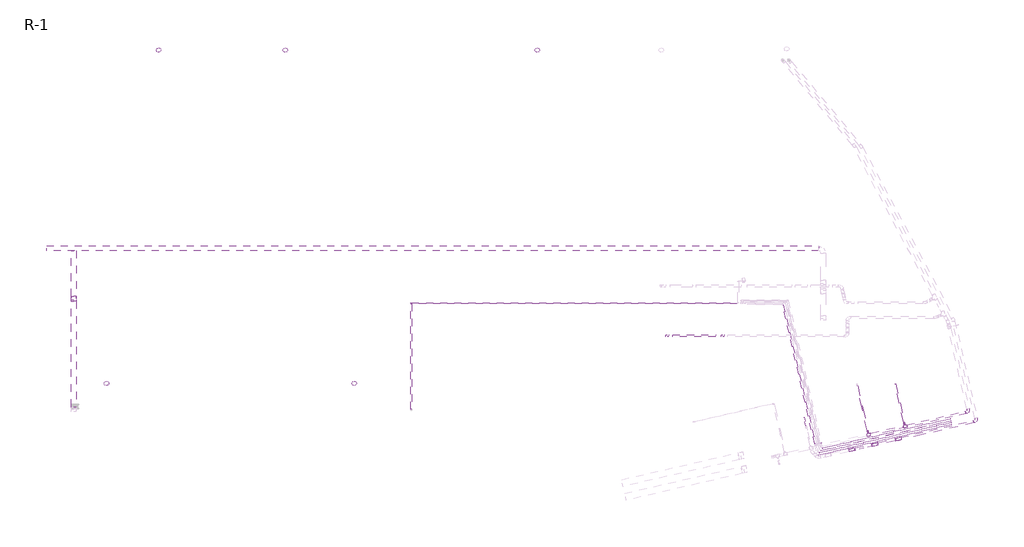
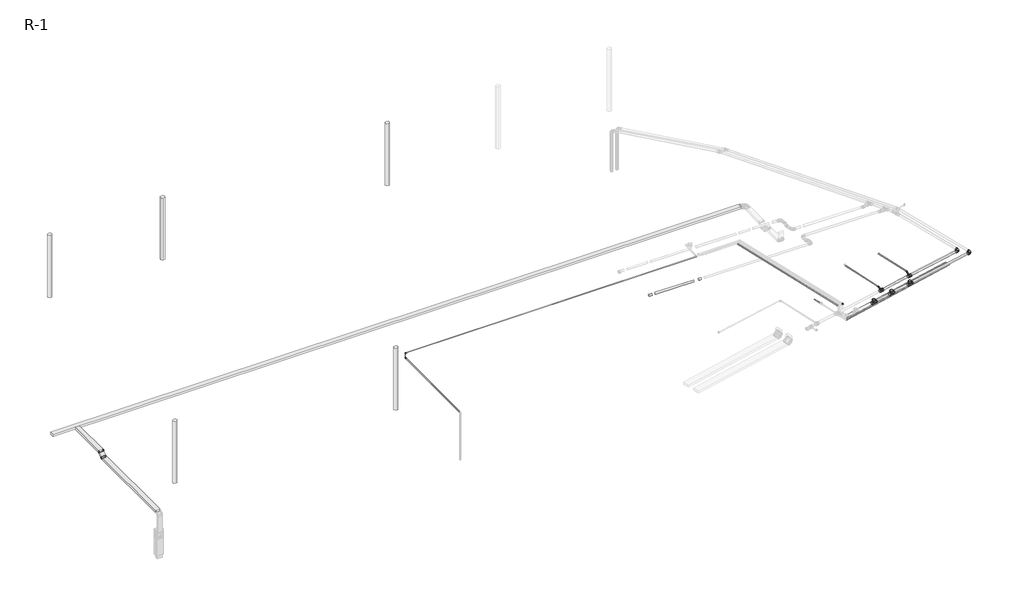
# One storey, part 2 of 4: 26 pipe segments, 13 pipe fittings, 4 cable carrier segments, 2 cable carrier fittings.
"""IFC4 building model written with IfcOpenShell, lengths in millimetres."""

from ifc_helpers import new_model, si_unit, point, frame, frame_2d, origin, place, context, project, spatial, polyline, circle_curve, trimmed, segment, composite_curve, outline, extrude, transform, mapped, element, save
from components import standaard_fc092b2d, standaard_97f41160, coude_ff_pvc_u_standard_f7723ec7, coude_ff_pvc_u_standard_8c4d7ce2, coude_ff_pvc_u_standard_2eac1543, coude_ff_pvc_u_standard_c60e91f8, standard_6e5039bf, standard_4afe001c, standard_fb7d58a2, standard_da27b0df, standard_a2dd615c, standard_5fcdce4c, standard_f6c9f473

model = new_model("IFC4")

# Units and contexts
model_context = context("Model", 3, world=origin())
ifc_project = project(units=[si_unit("LENGTHUNIT", "METRE", prefix="MILLI")], contexts=[model_context])

# Site, building, storey
site = spatial("IfcSite", under=ifc_project)
building = spatial("IfcBuilding", under=site)
storey = spatial("IfcBuildingStorey", under=building, Name="R-1", Elevation=-2900.0)

# Cable carrier fittings
placement = place(None, origin())
standaard_shape = standaard_fc092b2d(model_context)
element("IfcCableCarrierFitting", 1, ObjectType="AI_Raccord cdc_Coude desencdant : standaard", at=placement, inside=storey, context=model_context, shape_type="MappedRepresentation", body=[
    mapped(standaard_shape, transform((7512.0715876, 4480.1167058, -382.2402782), x_axis=(0.0, -1.0, 0.0), y_axis=(0.0, 0.0, -1.0), z_axis=(1.0, 0.0, 0.0))),
])
standaard_2_shape = standaard_97f41160(model_context)
element("IfcCableCarrierFitting", 2, ObjectType="AI_Raccord cdc_Coude montant : standaard", at=placement, inside=storey, context=model_context, shape_type="MappedRepresentation", body=[
    mapped(standaard_2_shape, transform((7512.0715876, 4312.356984, -550.0), x_axis=(0.0, -0.7071067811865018, -0.7071067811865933), y_axis=(0.0, -0.7071067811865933, 0.7071067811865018), z_axis=(-1.0, 0.0, 0.0))),
])

# Cable carrier segments
element("IfcCableCarrierSegment", 3, ObjectType="Par défaut", at=placement, inside=storey, context=model_context, shape_type="SweptSolid", body=[
    extrude(outline(polyline([(7612.0715876, -179.5886718), (7412.0715876, -179.5886718), (7412.0715876, 4290.2320923), (7612.0715876, 4290.2320923), (7612.0715876, -179.5886718)])), frame((0.0, 0.0, -600.0), z_axis=(0.0, 0.0, 1.0), x_axis=(1.0, 0.0, 0.0)), (0.0, 0.0, 1.0), 100.0),
])
element("IfcCableCarrierSegment", 4, ObjectType="Par défaut", at=placement, inside=storey, context=model_context, shape_type="SweptSolid", body=[
    extrude(outline(polyline([(6363.1480976, 6430.3545469), (6363.1480976, 6630.3545469), (39006.6747361, 6630.3545469), (39006.6747361, 6430.3545469), (6363.1480976, 6430.3545469)])), frame((0.0, 0.0, -432.2402782), z_axis=(0.0, 0.0, 1.0), x_axis=(1.0, 0.0, 0.0)), (0.0, 0.0, 1.0), 100.0),
])
element("IfcCableCarrierSegment", 5, ObjectType="Par défaut", at=placement, inside=storey, context=model_context, shape_type="SweptSolid", body=[
    extrude(outline(polyline([(7612.0715876, 6430.3545469), (7612.0715876, 4502.2415975), (7412.0715876, 4502.2415975), (7412.0715876, 6430.3545469), (7612.0715876, 6430.3545469)])), frame((0.0, 0.0, -432.2402782), z_axis=(0.0, 0.0, 1.0), x_axis=(1.0, 0.0, 0.0)), (0.0, 0.0, 1.0), 100.0),
])
element("IfcCableCarrierSegment", 6, ObjectType="Par défaut", at=placement, inside=storey, context=model_context, shape_type="SweptSolid", body=[
    extrude(outline(polyline([(-100.0, -61.8033989), (100.0, -61.8033989), (100.0, -161.8033989), (-100.0, -161.8033989), (-100.0, -61.8033989)])), frame((7512.0715876, 4407.0585864, -613.4122806), z_axis=(0.0, 0.7071067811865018, 0.7071067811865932), x_axis=(1.0, 0.0, 0.0)), (0.0, 0.0, 1.0), 192.9982904),
])

# Pipe fittings
coude_ff_pvc_u_standard_shape = coude_ff_pvc_u_standard_f7723ec7(model_context)
element("IfcPipeFitting", 7, ObjectType="Coude - FF - PVC-U : Standard", at=placement, inside=storey, context=model_context, shape_type="MappedRepresentation", body=[
    mapped(coude_ff_pvc_u_standard_shape, transform((45692.5434802, -771.2933735, -587.2236629), x_axis=(0.9742673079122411, 0.224896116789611, -0.014998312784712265), y_axis=(-0.225115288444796, 0.9742167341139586, -0.01499539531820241), z_axis=(0.011239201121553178, 0.01798587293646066, 0.9997750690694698))),
])
coude_ff_pvc_u_standard_2_shape = coude_ff_pvc_u_standard_8c4d7ce2(model_context)
element("IfcPipeFitting", 8, ObjectType="Coude - FF - PVC-U : Standard", at=placement, inside=storey, context=model_context, shape_type="MappedRepresentation", body=[
    mapped(coude_ff_pvc_u_standard_2_shape, transform((45356.083122, -379.144878, -610.8907552), x_axis=(0.9742598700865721, 0.22492833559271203, -0.014998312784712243), y_axis=(-0.22514750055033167, 0.9742092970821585, -0.014994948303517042), z_axis=(0.011238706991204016, 0.017985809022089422, 0.9997750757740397))),
])
coude_ff_pvc_u_standard_3_shape = coude_ff_pvc_u_standard_2eac1543(model_context)
element("IfcPipeFitting", 9, ObjectType="Coude - FF - PVC-U : Standard", at=placement, inside=storey, context=model_context, shape_type="MappedRepresentation", body=[
    mapped(coude_ff_pvc_u_standard_3_shape, transform((41088.6287533, -1205.9081242, -443.1378667), x_axis=(0.22467102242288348, -0.9743192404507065, -0.014998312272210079), y_axis=(-0.002994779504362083, 0.01470132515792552, -0.9998874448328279), z_axis=(0.9744300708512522, 0.2246906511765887, 0.0003850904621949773))),
])
coude_ff_pvc_u_standard_4_shape = coude_ff_pvc_u_standard_c60e91f8(model_context)
element("IfcPipeFitting", 10, ObjectType="Coude - FF - PVC-U : Standard", at=placement, inside=storey, context=model_context, shape_type="MappedRepresentation", body=[
    mapped(coude_ff_pvc_u_standard_4_shape, transform((42631.1101324, -855.2775064, -435.5859837), x_axis=(0.22492868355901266, -0.9742597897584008, -0.01499831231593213), y_axis=(-0.021043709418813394, 0.01053191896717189, -0.9997230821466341), z_axis=(0.974147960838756, 0.2251820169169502, -0.018133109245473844))),
])
standard_shape = standard_6e5039bf(model_context)
element("IfcPipeFitting", 11, ObjectType="Coude - Générique1 : Standard", at=placement, inside=storey, context=model_context, shape_type="MappedRepresentation", body=[
    mapped(standard_shape, transform((39102.4868441, -1703.5362678, -296.6995), x_axis=(0.0, 0.0, 1.0), y_axis=(-0.22505274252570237, 0.9743465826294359, 0.0), z_axis=(-0.9743465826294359, -0.22505274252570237, 0.0))),
])
element("IfcPipeFitting", 12, ObjectType="Coude - Générique1 : Standard", at=placement, inside=storey, context=model_context, shape_type="MappedRepresentation", body=[
    mapped(standard_shape, transform((21784.7623914, 4212.7875587, -539.2767599), x_axis=(0.0, 1.0, 0.0), y_axis=(0.0, 0.0, 1.0), z_axis=(1.0, 0.0, 0.0))),
])
element("IfcPipeFitting", 13, ObjectType="Coude - Générique1 : Standard", at=placement, inside=storey, context=model_context, shape_type="MappedRepresentation", body=[
    mapped(standard_shape, transform((21784.7623914, 4212.7875587, -296.6995001), x_axis=(0.0, 0.0, 1.0), y_axis=(1.0, 0.0, 0.0), z_axis=(0.0, 1.0, 0.0))),
])
standard_2_shape = standard_4afe001c(model_context)
element("IfcPipeFitting", 14, ObjectType="EG-RCAN Té sanitaire de réduction - PVC - Nom. 40 - DWV : Standard", at=placement, inside=storey, context=model_context, shape_type="MappedRepresentation", body=[
    mapped(standard_2_shape, transform((41123.3626635, -1356.3572183, -545.7298394), x_axis=(-0.9742598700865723, -0.2249283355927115, 0.014998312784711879), y_axis=(0.1805228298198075, -0.8183080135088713, -0.5456954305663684), z_axis=(0.13501560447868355, -0.5289416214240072, 0.8378493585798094))),
])
standard_3_shape = standard_fb7d58a2(model_context)
element("IfcPipeFitting", 15, ObjectType="EG-RCAN Té sanitaire de réduction - PVC - Nom. 40 - DWV : Standard", at=placement, inside=storey, context=model_context, shape_type="MappedRepresentation", body=[
    mapped(standard_3_shape, transform((42662.0496357, -1001.1190419, -569.4172653), x_axis=(-0.9742598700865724, -0.2249283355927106, 0.014998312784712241), y_axis=(0.14871914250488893, -0.6913142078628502, -0.707083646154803), z_axis=(0.16941169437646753, -0.6866526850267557, 0.7069708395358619))),
])
standard_4_shape = standard_da27b0df(model_context)
element("IfcPipeFitting", 16, ObjectType="Transformation - Générique : Standard", at=placement, inside=storey, context=model_context, shape_type="MappedRepresentation", body=[
    mapped(standard_4_shape, transform((42648.2895241, -936.2533457, -503.1184512), x_axis=(-0.14674639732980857, 0.6917681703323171, 0.7070518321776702), y_axis=(-0.9745589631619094, -0.2235282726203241, 0.01642981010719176), z_axis=(0.16941169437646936, -0.6866526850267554, 0.7069708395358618))),
])
standard_5_shape = standard_a2dd615c(model_context)
element("IfcPipeFitting", 17, ObjectType="EG-RCAN Té sanitaire de réduction - PVC - Nom. 40 - DWV : Standard", at=placement, inside=storey, context=model_context, shape_type="MappedRepresentation", body=[
    mapped(standard_5_shape, transform((40407.105911, -1991.3634458, -505.8572399), x_axis=(-0.9742673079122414, -0.22489611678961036, 0.014998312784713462), y_axis=(-0.014720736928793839, -0.002911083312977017, -0.9998874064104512), z_axis=(0.22491445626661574, -0.9743783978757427, -0.00047446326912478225))),
])
standard_6_shape = standard_5fcdce4c(model_context)
element("IfcPipeFitting", 18, ObjectType="EG-RCAN Té sanitaire de réduction - PVC - Nom. 40 - DWV : Standard", at=placement, inside=storey, context=model_context, shape_type="MappedRepresentation", body=[
    mapped(standard_6_shape, transform((41370.2226912, -1769.041274, -520.6838964), x_axis=(-0.9742673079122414, -0.22489611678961, 0.014998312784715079), y_axis=(-0.014700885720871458, -0.0029970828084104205, -0.9998874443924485), z_axis=(0.22491575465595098, -0.9743781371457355, -0.00038621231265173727))),
])
standard_7_shape = standard_f6c9f473(model_context)
element("IfcPipeFitting", 19, ObjectType="EG-RCAN Té sanitaire de réduction - PVC - Nom. 40 - DWV : Standard", at=placement, inside=storey, context=model_context, shape_type="MappedRepresentation", body=[
    mapped(standard_7_shape, transform((42372.6425516, -1537.6465303, -536.1156023), x_axis=(-0.9742673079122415, -0.2248961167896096, 0.014998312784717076), y_axis=(-0.014682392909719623, -0.003077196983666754, -0.9998874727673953), z_axis=(0.22491696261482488, -0.9743778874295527, -0.00030400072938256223))),
])

# Pipe segments
element("IfcPipeSegment", 20, ObjectType="PVC Pression HTA", at=placement, inside=storey, context=model_context, shape_type="SweptSolid", body=[
    extrude(outline(composite_curve([segment(trimmed(circle_curve(frame_2d((-539.2767599, 21784.7623914)), 16.7005), [point((-539.2767599, 21768.0618914))], [point((-555.9772599, 21784.7623914))], False, "CARTESIAN"), True, "CONTINUOUS"), segment(trimmed(circle_curve(frame_2d((-539.2767599, 21784.7623914)), 16.7005), [point((-555.9772599, 21784.7623914))], [point((-539.2767599, 21801.4628914))], False, "CARTESIAN"), True, "CONTINUOUS"), segment(trimmed(circle_curve(frame_2d((-539.2767599, 21784.7623914)), 16.7005), [point((-539.2767599, 21801.4628914))], [point((-522.5762599, 21784.7623914))], False, "CARTESIAN"), True, "CONTINUOUS"), segment(trimmed(circle_curve(frame_2d((-539.2767599, 21784.7623914)), 16.7005), [point((-522.5762599, 21784.7623914))], [point((-539.2767599, 21768.0618914))], False, "CARTESIAN"), True, "CONTINUOUS")], self_intersect=False)), frame((0.0, -270.1789703, 0.0), z_axis=(0.0, 1.0, 0.0), x_axis=(0.0, 0.0, 1.0)), (0.0, 0.0, 1.0), 4457.9665291),
])
element("IfcPipeSegment", 21, ObjectType="PVC Pression HTA", at=placement, inside=storey, context=model_context, shape_type="SweptSolid", body=[
    extrude(outline(composite_curve([segment(trimmed(circle_curve(frame_2d((4212.7875587, -296.6995001)), 16.7005), [point((4196.0870587, -296.6995001))], [point((4212.7875587, -279.9990001))], False, "CARTESIAN"), True, "CONTINUOUS"), segment(trimmed(circle_curve(frame_2d((4212.7875587, -296.6995001)), 16.7005), [point((4212.7875587, -279.9990001))], [point((4229.4880587, -296.6995001))], False, "CARTESIAN"), True, "CONTINUOUS"), segment(trimmed(circle_curve(frame_2d((4212.7875587, -296.6995001)), 16.7005), [point((4229.4880587, -296.6995001))], [point((4212.7875587, -313.4000001))], False, "CARTESIAN"), True, "CONTINUOUS"), segment(trimmed(circle_curve(frame_2d((4212.7875587, -296.6995001)), 16.7005), [point((4212.7875587, -313.4000001))], [point((4196.0870587, -296.6995001))], False, "CARTESIAN"), True, "CONTINUOUS")], self_intersect=False)), frame((21809.7623914, 0.0, 0.0), z_axis=(1.0, 0.0, 0.0), x_axis=(0.0, 1.0, 0.0)), (0.0, 0.0, 1.0), 13770.7957932),
])
element("IfcPipeSegment", 22, ObjectType="Acier - Té", at=placement, inside=storey, context=model_context, shape_type="SweptSolid", body=[
    extrude(outline(composite_curve([segment(trimmed(circle_curve(frame_2d((0.0, -16.7005)), 16.7005), [point((-16.7005001, -16.7005))], [point((0.0, 0.0))], False, "CARTESIAN"), True, "CONTINUOUS"), segment(trimmed(circle_curve(frame_2d((0.0, -16.7005)), 16.7005), [point((0.0, 0.0))], [point((16.7005, -16.7005))], False, "CARTESIAN"), True, "CONTINUOUS"), segment(trimmed(circle_curve(frame_2d((0.0, -16.7005)), 16.7005), [point((16.7005, -16.7005))], [point((0.0, -33.401))], False, "CARTESIAN"), True, "CONTINUOUS"), segment(trimmed(circle_curve(frame_2d((0.0, -16.7005)), 16.7005), [point((0.0, -33.401))], [point((-16.7005001, -16.7005))], False, "CARTESIAN"), True, "CONTINUOUS")], self_intersect=False)), frame((38860.4804567, -1733.7509914, -313.4), z_axis=(-0.22511561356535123, 0.9743320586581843, 0.0), x_axis=(0.9743320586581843, 0.22511561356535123, 0.0)), (0.0, 0.0, 1.0), 6032.4796461),
])
element("IfcPipeSegment", 23, ObjectType="Acier - Té", at=placement, inside=storey, context=model_context, shape_type="SweptSolid", body=[
    extrude(outline(composite_curve([segment(trimmed(circle_curve(frame_2d((0.0, 16.7005)), 16.7005), [point((16.7004999, 16.7005))], [point((0.0, 0.0))], False, "CARTESIAN"), True, "CONTINUOUS"), segment(trimmed(circle_curve(frame_2d((0.0, 16.7005)), 16.7005), [point((0.0, 0.0))], [point((-16.7005001, 16.7005))], False, "CARTESIAN"), True, "CONTINUOUS"), segment(trimmed(circle_curve(frame_2d((0.0, 16.7005)), 16.7005), [point((-16.7005001, 16.7005))], [point((0.0, 33.401))], False, "CARTESIAN"), True, "CONTINUOUS"), segment(trimmed(circle_curve(frame_2d((0.0, 16.7005)), 16.7005), [point((0.0, 33.401))], [point((16.7004999, 16.7005))], False, "CARTESIAN"), True, "CONTINUOUS")], self_intersect=False)), frame((38997.3010222, -2214.4706954, -749.4824602), z_axis=(0.9743176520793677, 0.22517795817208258, 0.0), x_axis=(0.22517795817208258, -0.9743176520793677, 0.0)), (0.0, 0.0, 1.0), 5779.9387411),
])
element("IfcPipeSegment", 24, ObjectType="Acier - Té", at=placement, inside=storey, context=model_context, shape_type="SweptSolid", body=[
    extrude(outline(composite_curve([segment(trimmed(circle_curve(frame_2d((0.0, 16.7005)), 16.7005), [point((16.7005, 16.7005))], [point((0.0, 0.0))], False, "CARTESIAN"), True, "CONTINUOUS"), segment(trimmed(circle_curve(frame_2d((0.0, 16.7005)), 16.7005), [point((0.0, 0.0))], [point((-16.7005, 16.7005))], False, "CARTESIAN"), True, "CONTINUOUS"), segment(trimmed(circle_curve(frame_2d((0.0, 16.7005)), 16.7005), [point((-16.7005, 16.7005))], [point((0.0, 33.401))], False, "CARTESIAN"), True, "CONTINUOUS"), segment(trimmed(circle_curve(frame_2d((0.0, 16.7005)), 16.7005), [point((0.0, 33.401))], [point((16.7005, 16.7005))], False, "CARTESIAN"), True, "CONTINUOUS")], self_intersect=False)), frame((39058.4339588, -2115.1624351, -749.4824602), z_axis=(0.974352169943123, 0.22502855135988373, 0.0), x_axis=(0.22502855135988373, -0.974352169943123, 0.0)), (0.0, 0.0, 1.0), 5698.0329564),
])
element("IfcPipeSegment", 25, ObjectType="Acier - Té", at=placement, inside=storey, context=model_context, shape_type="SweptSolid", body=[
    extrude(outline(composite_curve([segment(trimmed(circle_curve(frame_2d((0.0, 16.7005)), 16.7005), [point((16.7005, 16.7005))], [point((0.0, 0.0))], False, "CARTESIAN"), True, "CONTINUOUS"), segment(trimmed(circle_curve(frame_2d((0.0, 16.7005)), 16.7005), [point((0.0, 0.0))], [point((-16.7005, 16.7005))], False, "CARTESIAN"), True, "CONTINUOUS"), segment(trimmed(circle_curve(frame_2d((0.0, 16.7005)), 16.7005), [point((-16.7005, 16.7005))], [point((0.0, 33.401))], False, "CARTESIAN"), True, "CONTINUOUS"), segment(trimmed(circle_curve(frame_2d((0.0, 16.7005)), 16.7005), [point((0.0, 33.401))], [point((16.7005, 16.7005))], False, "CARTESIAN"), True, "CONTINUOUS")], self_intersect=False)), frame((39117.2152692, -2021.7717428, -749.4824602), z_axis=(0.9743349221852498, 0.2251032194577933, 0.0), x_axis=(0.2251032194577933, -0.9743349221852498, 0.0)), (0.0, 0.0, 1.0), 5619.7499403),
])
element("IfcPipeSegment", 26, ObjectType="Acier - Té", at=placement, inside=storey, context=model_context, shape_type="SweptSolid", body=[
    extrude(outline(composite_curve([segment(trimmed(circle_curve(frame_2d((0.0, 16.7005)), 16.7005), [point((16.7005, 16.7005))], [point((0.0, 0.0))], False, "CARTESIAN"), True, "CONTINUOUS"), segment(trimmed(circle_curve(frame_2d((0.0, 16.7005)), 16.7005), [point((0.0, 0.0))], [point((-16.7005, 16.7005))], False, "CARTESIAN"), True, "CONTINUOUS"), segment(trimmed(circle_curve(frame_2d((0.0, 16.7005)), 16.7005), [point((-16.7005, 16.7005))], [point((0.0, 33.401))], False, "CARTESIAN"), True, "CONTINUOUS"), segment(trimmed(circle_curve(frame_2d((0.0, 16.7005)), 16.7005), [point((0.0, 33.401))], [point((16.7005, 16.7005))], False, "CARTESIAN"), True, "CONTINUOUS")], self_intersect=False)), frame((39178.7552792, -1922.573988, -749.4824602), z_axis=(0.974352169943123, 0.22502855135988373, 0.0), x_axis=(0.22502855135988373, -0.974352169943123, 0.0)), (0.0, 0.0, 1.0), 5537.4724891),
])
element("IfcPipeSegment", 27, ObjectType="PVC Pression HTA", at=placement, inside=storey, context=model_context, shape_type="SweptSolid", body=[
    extrude(outline(composite_curve([segment(trimmed(circle_curve(frame_2d((21784.7623914, 4212.7875587)), 16.7005), [point((21768.0618914, 4212.7875587))], [point((21784.7623914, 4229.4880587))], False, "CARTESIAN"), True, "CONTINUOUS"), segment(trimmed(circle_curve(frame_2d((21784.7623914, 4212.7875587)), 16.7005), [point((21784.7623914, 4229.4880587))], [point((21801.4628914, 4212.7875587))], False, "CARTESIAN"), True, "CONTINUOUS"), segment(trimmed(circle_curve(frame_2d((21784.7623914, 4212.7875587)), 16.7005), [point((21801.4628914, 4212.7875587))], [point((21784.7623914, 4196.0870587))], False, "CARTESIAN"), True, "CONTINUOUS"), segment(trimmed(circle_curve(frame_2d((21784.7623914, 4212.7875587)), 16.7005), [point((21784.7623914, 4196.0870587))], [point((21768.0618914, 4212.7875587))], False, "CARTESIAN"), True, "CONTINUOUS")], self_intersect=False)), frame((0.0, 0.0, -514.2767599), z_axis=(0.0, 0.0, 1.0), x_axis=(1.0, 0.0, 0.0)), (0.0, 0.0, 1.0), 192.5772598),
])
element("IfcPipeSegment", 28, ObjectType="PVC", at=placement, inside=storey, context=model_context, shape_type="SweptSolid", body=[
    extrude(outline(composite_curve([segment(trimmed(circle_curve(frame_2d((0.0, -16.0)), 16.0), [point((-15.9999044, -16.0553357))], [point((-0.0553358, -9.57e-05))], False, "CARTESIAN"), True, "CONTINUOUS"), segment(trimmed(circle_curve(frame_2d((0.0, -16.0)), 16.0), [point((-0.0553358, -9.57e-05))], [point((15.9999043, -15.9446643))], False, "CARTESIAN"), True, "CONTINUOUS"), segment(trimmed(circle_curve(frame_2d((0.0, -16.0)), 16.0), [point((15.9999043, -15.9446643))], [point((0.0553357, -31.9999043))], False, "CARTESIAN"), True, "CONTINUOUS"), segment(trimmed(circle_curve(frame_2d((0.0, -16.0)), 16.0), [point((0.0553357, -31.9999043))], [point((-15.9999044, -16.0553357))], False, "CARTESIAN"), True, "CONTINUOUS")], self_intersect=False)), frame((41080.9899386, -1172.5350011, -458.6260287), z_axis=(-0.22467102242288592, 0.974319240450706, 0.014998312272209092), x_axis=(0.9744346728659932, 0.2246444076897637, 0.0034580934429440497)), (0.0, 0.0, 1.0), 1958.0000016),
])
element("IfcPipeSegment", 29, ObjectType="PVC", at=placement, inside=storey, context=model_context, shape_type="SweptSolid", body=[
    extrude(outline(composite_curve([segment(trimmed(circle_curve(frame_2d((0.0, 16.0)), 16.0), [point((15.869871, 18.0364658))], [point((2.0364658, 0.130129))], False, "CARTESIAN"), True, "CONTINUOUS"), segment(trimmed(circle_curve(frame_2d((0.0, 16.0)), 16.0), [point((2.0364658, 0.130129))], [point((-15.869871, 13.9635343))], False, "CARTESIAN"), True, "CONTINUOUS"), segment(trimmed(circle_curve(frame_2d((0.0, 16.0)), 16.0), [point((-15.869871, 13.9635343))], [point((-2.0364658, 31.8698711))], False, "CARTESIAN"), True, "CONTINUOUS"), segment(trimmed(circle_curve(frame_2d((0.0, 16.0)), 16.0), [point((-2.0364658, 31.8698711))], [point((15.869871, 18.0364658))], False, "CARTESIAN"), True, "CONTINUOUS")], self_intersect=False)), frame((41105.6883404, -1288.8542422, -481.3586991), z_axis=(-0.18700136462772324, 0.8099918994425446, 0.5558269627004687), x_axis=(0.982359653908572, 0.1541895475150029, 0.10580687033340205)), (0.0, 0.0, 1.0), 57.6250985),
])
element("IfcPipeSegment", 30, ObjectType="PVC", at=placement, inside=storey, context=model_context, shape_type="SweptSolid", body=[
    extrude(outline(composite_curve([segment(trimmed(circle_curve(frame_2d((0.0, 50.0)), 50.0), [point((-49.8948246, 53.2413696))], [point((3.2413696, 99.8948247))], False, "CARTESIAN"), True, "CONTINUOUS"), segment(trimmed(circle_curve(frame_2d((0.0, 50.0)), 50.0), [point((3.2413696, 99.8948247))], [point((49.8948247, 46.7586304))], False, "CARTESIAN"), True, "CONTINUOUS"), segment(trimmed(circle_curve(frame_2d((0.0, 50.0)), 50.0), [point((49.8948247, 46.7586304))], [point((-3.2413696, 0.1051754))], False, "CARTESIAN"), True, "CONTINUOUS"), segment(trimmed(circle_curve(frame_2d((0.0, 50.0)), 50.0), [point((-3.2413696, 0.1051754))], [point((-49.8948246, 53.2413696))], False, "CARTESIAN"), True, "CONTINUOUS")], self_intersect=False)), frame((42594.284954, -1020.0905736, -618.2632695), z_axis=(-0.9742598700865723, -0.22492833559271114, 0.014998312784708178), x_axis=(0.22542782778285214, -0.9721011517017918, 0.06482009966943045)), (0.0, 0.0, 1.0), 1422.8744292),
])
element("IfcPipeSegment", 31, ObjectType="PVC", at=placement, inside=storey, context=model_context, shape_type="SweptSolid", body=[
    extrude(outline(composite_curve([segment(trimmed(circle_curve(frame_2d((0.0, -16.0)), 16.0), [point((-15.9999041, -16.0554026))], [point((-0.0554026, -9.59e-05))], False, "CARTESIAN"), True, "CONTINUOUS"), segment(trimmed(circle_curve(frame_2d((0.0, -16.0)), 16.0), [point((-0.0554026, -9.59e-05))], [point((15.9999041, -15.9445974))], False, "CARTESIAN"), True, "CONTINUOUS"), segment(trimmed(circle_curve(frame_2d((0.0, -16.0)), 16.0), [point((15.9999041, -15.9445974))], [point((0.0554026, -31.9999041))], False, "CARTESIAN"), True, "CONTINUOUS"), segment(trimmed(circle_curve(frame_2d((0.0, -16.0)), 16.0), [point((0.0554026, -31.9999041))], [point((-15.9999041, -16.0554026))], False, "CARTESIAN"), True, "CONTINUOUS")], self_intersect=False)), frame((42623.4625211, -821.9062333, -451.0741431), z_axis=(-0.22492868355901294, 0.9742597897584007, 0.014998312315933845), x_axis=(0.9743752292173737, 0.22490203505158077, 0.0034622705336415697)), (0.0, 0.0, 1.0), 1662.8274458),
])
element("IfcPipeSegment", 32, ObjectType="PVC", at=placement, inside=storey, context=model_context, shape_type="SweptSolid", body=[
    extrude(outline(composite_curve([segment(trimmed(circle_curve(frame_2d((0.0, -16.0)), 16.0), [point((-15.8230082, -18.3732701))], [point((-2.3732702, -0.1769917))], False, "CARTESIAN"), True, "CONTINUOUS"), segment(trimmed(circle_curve(frame_2d((0.0, -16.0)), 16.0), [point((-2.3732702, -0.1769917))], [point((15.8230082, -13.6267298))], False, "CARTESIAN"), True, "CONTINUOUS"), segment(trimmed(circle_curve(frame_2d((0.0, -16.0)), 16.0), [point((15.8230082, -13.6267298))], [point((2.3732701, -31.8230082))], False, "CARTESIAN"), True, "CONTINUOUS"), segment(trimmed(circle_curve(frame_2d((0.0, -16.0)), 16.0), [point((2.3732701, -31.8230082))], [point((-15.8230082, -18.3732701))], False, "CARTESIAN"), True, "CONTINUOUS")], self_intersect=False)), frame((42639.223217, -882.0862589, -485.8657818), z_axis=(-0.14674639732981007, 0.6917681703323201, 0.707051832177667), x_axis=(0.989174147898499, 0.10262549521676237, 0.1048928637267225)), (0.0, 0.0, 1.0), 21.286431),
])
element("IfcPipeSegment", 33, ObjectType="PVC", at=placement, inside=storey, context=model_context, shape_type="SweptSolid", body=[
    extrude(outline(composite_curve([segment(trimmed(circle_curve(frame_2d((0.0, 50.0)), 50.0), [point((-49.8948246, 53.2413696))], [point((3.2413696, 99.8948247))], False, "CARTESIAN"), True, "CONTINUOUS"), segment(trimmed(circle_curve(frame_2d((0.0, 50.0)), 50.0), [point((3.2413696, 99.8948247))], [point((49.8948246, 46.7586304))], False, "CARTESIAN"), True, "CONTINUOUS"), segment(trimmed(circle_curve(frame_2d((0.0, 50.0)), 50.0), [point((49.8948246, 46.7586304))], [point((-3.2413696, 0.1051754))], False, "CARTESIAN"), True, "CONTINUOUS"), segment(trimmed(circle_curve(frame_2d((0.0, 50.0)), 50.0), [point((-3.2413696, 0.1051754))], [point((-49.8948246, 53.2413696))], False, "CARTESIAN"), True, "CONTINUOUS")], self_intersect=False)), frame((45225.5322994, -412.6119079, -658.7701937), z_axis=(-0.9742598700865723, -0.22492833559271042, 0.01499831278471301), x_axis=(0.22542782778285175, -0.9721011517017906, 0.06482009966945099)), (0.0, 0.0, 1.0), 2544.3004539),
])
element("IfcPipeSegment", 34, ObjectType="PVC", at=placement, inside=storey, context=model_context, shape_type="SweptSolid", body=[
    extrude(outline(composite_curve([segment(trimmed(circle_curve(frame_2d((1e-07, -50.0)), 50.0), [point((49.894793, -53.2418566))], [point((-3.2418566, -99.894793))], False, "CARTESIAN"), True, "CONTINUOUS"), segment(trimmed(circle_curve(frame_2d((1e-07, -50.0)), 50.0), [point((-3.2418566, -99.894793))], [point((-49.8947929, -46.7581433))], False, "CARTESIAN"), True, "CONTINUOUS"), segment(trimmed(circle_curve(frame_2d((1e-07, -50.0)), 50.0), [point((-49.8947929, -46.7581433))], [point((3.2418567, -0.105207))], False, "CARTESIAN"), True, "CONTINUOUS"), segment(trimmed(circle_curve(frame_2d((1e-07, -50.0)), 50.0), [point((3.2418567, -0.105207))], [point((49.894793, -53.2418566))], False, "CARTESIAN"), True, "CONTINUOUS")], self_intersect=False)), frame((41265.3027554, -1789.9334808, -469.1795306), z_axis=(-0.9742673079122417, -0.22489611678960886, 0.014998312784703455), x_axis=(0.22539568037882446, -0.9721079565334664, 0.06482983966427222)), (0.0, 0.0, 1.0), 742.9539362),
])
element("IfcPipeSegment", 35, ObjectType="PVC", at=placement, inside=storey, context=model_context, shape_type="SweptSolid", body=[
    extrude(outline(composite_curve([segment(trimmed(circle_curve(frame_2d((1e-07, -50.0000001)), 50.0), [point((49.894793, -53.2418567))], [point((-3.2418566, -99.894793))], False, "CARTESIAN"), True, "CONTINUOUS"), segment(trimmed(circle_curve(frame_2d((1e-07, -50.0000001)), 50.0), [point((-3.2418566, -99.894793))], [point((-49.8947929, -46.7581434))], False, "CARTESIAN"), True, "CONTINUOUS"), segment(trimmed(circle_curve(frame_2d((1e-07, -50.0000001)), 50.0), [point((-49.8947929, -46.7581434))], [point((3.2418567, -0.105207))], False, "CARTESIAN"), True, "CONTINUOUS"), segment(trimmed(circle_curve(frame_2d((1e-07, -50.0000001)), 50.0), [point((3.2418567, -0.105207))], [point((49.894793, -53.2418567))], False, "CARTESIAN"), True, "CONTINUOUS")], self_intersect=False)), frame((45561.9916609, -798.1023457, -535.3247082), z_axis=(-0.9742673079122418, -0.22489611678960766, 0.014998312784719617), x_axis=(0.22539568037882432, -0.9721079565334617, 0.06482983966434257)), (0.0, 0.0, 1.0), 3135.6774177),
])
element("IfcPipeSegment", 36, ObjectType="PVC", at=placement, inside=storey, context=model_context, shape_type="SweptSolid", body=[
    extrude(outline(composite_curve([segment(trimmed(circle_curve(frame_2d((0.0, -50.0)), 50.0), [point((49.894793, -53.2418567))], [point((-3.2418566, -99.894793))], False, "CARTESIAN"), True, "CONTINUOUS"), segment(trimmed(circle_curve(frame_2d((0.0, -50.0)), 50.0), [point((-3.2418566, -99.894793))], [point((-49.8947929, -46.7581434))], False, "CARTESIAN"), True, "CONTINUOUS"), segment(trimmed(circle_curve(frame_2d((0.0, -50.0)), 50.0), [point((-49.8947929, -46.7581434))], [point((3.2418566, -0.105207))], False, "CARTESIAN"), True, "CONTINUOUS"), segment(trimmed(circle_curve(frame_2d((0.0, -50.0)), 50.0), [point((3.2418566, -0.105207))], [point((49.894793, -53.2418567))], False, "CARTESIAN"), True, "CONTINUOUS")], self_intersect=False)), frame((42265.822048, -1558.9774569, -484.5819783), z_axis=(-0.9742673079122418, -0.22489611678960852, 0.014998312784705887), x_axis=(0.2253956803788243, -0.9721079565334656, 0.06482983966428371)), (0.0, 0.0, 1.0), 781.3443369),
])
element("IfcPipeSegment", 37, ObjectType="PVC", at=placement, inside=storey, context=model_context, shape_type="SweptSolid", body=[
    extrude(outline(composite_curve([segment(trimmed(circle_curve(frame_2d((0.0, -16.0)), 16.0), [point((-15.999906, -16.0548277))], [point((-0.0548277, -9.39e-05))], False, "CARTESIAN"), True, "CONTINUOUS"), segment(trimmed(circle_curve(frame_2d((0.0, -16.0)), 16.0), [point((-0.0548277, -9.39e-05))], [point((15.9999061, -15.9451722))], False, "CARTESIAN"), True, "CONTINUOUS"), segment(trimmed(circle_curve(frame_2d((0.0, -16.0)), 16.0), [point((15.9999061, -15.9451722))], [point((0.0548278, -31.999906))], False, "CARTESIAN"), True, "CONTINUOUS"), segment(trimmed(circle_curve(frame_2d((0.0, -16.0)), 16.0), [point((0.0548278, -31.999906))], [point((-15.999906, -16.0548277))], False, "CARTESIAN"), True, "CONTINUOUS")], self_intersect=False)), frame((38472.3883053, -972.0592621, -509.8542003), z_axis=(-0.22471005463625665, 0.9743123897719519, 0.014857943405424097), x_axis=(0.974425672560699, 0.2246839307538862, 0.003426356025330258)), (0.0, 0.0, 1.0), 368.2200471),
])
element("IfcPipeSegment", 38, ObjectType="PVC", at=placement, inside=storey, context=model_context, shape_type="SweptSolid", body=[
    extrude(outline(composite_curve([segment(trimmed(circle_curve(frame_2d((0.0, -100.0)), 100.0), [point((-100.0, -100.0))], [point((0.0, 0.0))], False, "CARTESIAN"), True, "CONTINUOUS"), segment(trimmed(circle_curve(frame_2d((0.0, -100.0)), 100.0), [point((0.0, 0.0))], [point((100.0, -100.0))], False, "CARTESIAN"), True, "CONTINUOUS"), segment(trimmed(circle_curve(frame_2d((0.0, -100.0)), 100.0), [point((100.0, -100.0))], [point((0.0, -200.0))], False, "CARTESIAN"), True, "CONTINUOUS"), segment(trimmed(circle_curve(frame_2d((0.0, -100.0)), 100.0), [point((0.0, -200.0))], [point((-100.0, -100.0))], False, "CARTESIAN"), True, "CONTINUOUS")], self_intersect=False)), frame((11102.1954424, 14812.7875571, -200.0000031), z_axis=(1.109053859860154e-08, 0.0, 1.0), x_axis=(-1.0, 0.0, 1.109053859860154e-08)), (0.0, 0.0, 1.0), 3100.0),
])
element("IfcPipeSegment", 39, ObjectType="PVC", at=placement, inside=storey, context=model_context, shape_type="SweptSolid", body=[
    extrude(outline(composite_curve([segment(trimmed(circle_curve(frame_2d((0.0, -100.0)), 100.0), [point((-100.0, -100.0))], [point((0.0, 0.0))], False, "CARTESIAN"), True, "CONTINUOUS"), segment(trimmed(circle_curve(frame_2d((0.0, -100.0)), 100.0), [point((0.0, 0.0))], [point((100.0, -100.0))], False, "CARTESIAN"), True, "CONTINUOUS"), segment(trimmed(circle_curve(frame_2d((0.0, -100.0)), 100.0), [point((100.0, -100.0))], [point((0.0, -200.0))], False, "CARTESIAN"), True, "CONTINUOUS"), segment(trimmed(circle_curve(frame_2d((0.0, -100.0)), 100.0), [point((0.0, -200.0))], [point((-100.0, -100.0))], False, "CARTESIAN"), True, "CONTINUOUS")], self_intersect=False)), frame((16453.490039, 14812.7875571, -200.0000031), z_axis=(1.109053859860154e-08, 0.0, 1.0), x_axis=(-1.0, 0.0, 1.109053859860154e-08)), (0.0, 0.0, 1.0), 3100.0),
])
element("IfcPipeSegment", 40, ObjectType="PVC", at=placement, inside=storey, context=model_context, shape_type="SweptSolid", body=[
    extrude(outline(composite_curve([segment(trimmed(circle_curve(frame_2d((0.0, -100.0)), 100.0), [point((-100.0, -100.0))], [point((0.0, 0.0))], False, "CARTESIAN"), True, "CONTINUOUS"), segment(trimmed(circle_curve(frame_2d((0.0, -100.0)), 100.0), [point((0.0, 0.0))], [point((100.0, -100.0))], False, "CARTESIAN"), True, "CONTINUOUS"), segment(trimmed(circle_curve(frame_2d((0.0, -100.0)), 100.0), [point((100.0, -100.0))], [point((0.0, -200.0))], False, "CARTESIAN"), True, "CONTINUOUS"), segment(trimmed(circle_curve(frame_2d((0.0, -100.0)), 100.0), [point((0.0, -200.0))], [point((-100.0, -100.0))], False, "CARTESIAN"), True, "CONTINUOUS")], self_intersect=False)), frame((27110.8227379, 14812.7875571, -200.0000031), z_axis=(1.1090539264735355e-08, 0.0, 1.0), x_axis=(-1.0, 0.0, 1.1090539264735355e-08)), (0.0, 0.0, 1.0), 3100.0),
])
element("IfcPipeSegment", 41, ObjectType="PVC", at=placement, inside=storey, context=model_context, shape_type="SweptSolid", body=[
    extrude(outline(composite_curve([segment(trimmed(circle_curve(frame_2d((0.0, -100.0)), 100.0), [point((-100.0, -100.0))], [point((0.0, 0.0))], False, "CARTESIAN"), True, "CONTINUOUS"), segment(trimmed(circle_curve(frame_2d((0.0, -100.0)), 100.0), [point((0.0, 0.0))], [point((100.0, -100.0))], False, "CARTESIAN"), True, "CONTINUOUS"), segment(trimmed(circle_curve(frame_2d((0.0, -100.0)), 100.0), [point((100.0, -100.0))], [point((0.0, -200.0))], False, "CARTESIAN"), True, "CONTINUOUS"), segment(trimmed(circle_curve(frame_2d((0.0, -100.0)), 100.0), [point((0.0, -200.0))], [point((-100.0, -100.0))], False, "CARTESIAN"), True, "CONTINUOUS")], self_intersect=False)), frame((8898.6464288, 718.8442866, -200.0000031), z_axis=(1.1090538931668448e-08, 0.0, 1.0), x_axis=(-1.0, 0.0, 1.1090538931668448e-08)), (0.0, 0.0, 1.0), 3100.0),
])
element("IfcPipeSegment", 42, ObjectType="PVC", at=placement, inside=storey, context=model_context, shape_type="SweptSolid", body=[
    extrude(outline(composite_curve([segment(trimmed(circle_curve(frame_2d((0.0, -100.0)), 100.0), [point((-100.0, -100.0))], [point((0.0, 0.0))], False, "CARTESIAN"), True, "CONTINUOUS"), segment(trimmed(circle_curve(frame_2d((0.0, -100.0)), 100.0), [point((0.0, 0.0))], [point((100.0, -100.0))], False, "CARTESIAN"), True, "CONTINUOUS"), segment(trimmed(circle_curve(frame_2d((0.0, -100.0)), 100.0), [point((100.0, -100.0))], [point((0.0, -200.0))], False, "CARTESIAN"), True, "CONTINUOUS"), segment(trimmed(circle_curve(frame_2d((0.0, -100.0)), 100.0), [point((0.0, -200.0))], [point((-100.0, -100.0))], False, "CARTESIAN"), True, "CONTINUOUS")], self_intersect=False)), frame((19376.3565739, 718.8442866, -200.0000031), z_axis=(1.109053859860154e-08, 0.0, 1.0), x_axis=(-1.0, 0.0, 1.109053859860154e-08)), (0.0, 0.0, 1.0), 3100.0),
])
element("IfcPipeSegment", 43, ObjectType="PVC", at=placement, inside=storey, context=model_context, shape_type="SweptSolid", body=[
    extrude(outline(composite_curve([segment(trimmed(circle_curve(frame_2d((0.0, -50.0)), 50.0), [point((0.0, -100.0))], [point((-50.0, -50.0))], False, "CARTESIAN"), True, "CONTINUOUS"), segment(trimmed(circle_curve(frame_2d((0.0, -50.0)), 50.0), [point((-50.0, -50.0))], [point((0.0, 0.0))], False, "CARTESIAN"), True, "CONTINUOUS"), segment(trimmed(circle_curve(frame_2d((0.0, -50.0)), 50.0), [point((0.0, 0.0))], [point((50.0, -50.0))], False, "CARTESIAN"), True, "CONTINUOUS"), segment(trimmed(circle_curve(frame_2d((0.0, -50.0)), 50.0), [point((50.0, -50.0))], [point((0.0, -100.0))], False, "CARTESIAN"), True, "CONTINUOUS")], self_intersect=False)), frame((32677.5314159, 2882.6862635, -337.482399), z_axis=(-0.9999500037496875, 0.0, 0.009999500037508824), x_axis=(0.009999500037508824, 0.0, 0.9999500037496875)), (0.0, 0.0, 1.0), 141.1763428),
])
element("IfcPipeSegment", 44, ObjectType="PVC", at=placement, inside=storey, context=model_context, shape_type="SweptSolid", body=[
    extrude(outline(composite_curve([segment(trimmed(circle_curve(frame_2d((0.0, -50.0)), 50.0), [point((0.0, -100.0))], [point((-50.0, -50.0))], False, "CARTESIAN"), True, "CONTINUOUS"), segment(trimmed(circle_curve(frame_2d((0.0, -50.0)), 50.0), [point((-50.0, -50.0))], [point((0.0, 0.0))], False, "CARTESIAN"), True, "CONTINUOUS"), segment(trimmed(circle_curve(frame_2d((0.0, -50.0)), 50.0), [point((0.0, 0.0))], [point((50.0, -50.0))], False, "CARTESIAN"), True, "CONTINUOUS"), segment(trimmed(circle_curve(frame_2d((0.0, -50.0)), 50.0), [point((50.0, -50.0))], [point((0.0, -100.0))], False, "CARTESIAN"), True, "CONTINUOUS")], self_intersect=False)), frame((34653.3033369, 2882.6862635, -357.2401182), z_axis=(-0.9999500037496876, 0.0, 0.009999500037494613), x_axis=(0.009999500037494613, 0.0, 0.9999500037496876)), (0.0, 0.0, 1.0), 1819.2430516),
])
element("IfcPipeSegment", 45, ObjectType="PVC", at=placement, inside=storey, context=model_context, shape_type="SweptSolid", body=[
    extrude(outline(composite_curve([segment(trimmed(circle_curve(frame_2d((0.0, -50.0)), 50.0), [point((0.0, -100.0))], [point((-50.0, -50.0))], False, "CARTESIAN"), True, "CONTINUOUS"), segment(trimmed(circle_curve(frame_2d((0.0, -50.0)), 50.0), [point((-50.0, -50.0))], [point((0.0, 0.0))], False, "CARTESIAN"), True, "CONTINUOUS"), segment(trimmed(circle_curve(frame_2d((0.0, -50.0)), 50.0), [point((0.0, 0.0))], [point((50.0, -50.0))], False, "CARTESIAN"), True, "CONTINUOUS"), segment(trimmed(circle_curve(frame_2d((0.0, -50.0)), 50.0), [point((50.0, -50.0))], [point((0.0, -100.0))], False, "CARTESIAN"), True, "CONTINUOUS")], self_intersect=False)), frame((35012.3674776, 2882.6862635, -360.8307596), z_axis=(-0.9999500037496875, 0.0, 0.009999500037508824), x_axis=(0.009999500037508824, 0.0, 0.9999500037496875)), (0.0, 0.0, 1.0), 112.9701242),
])

save(model, "model.ifc")
